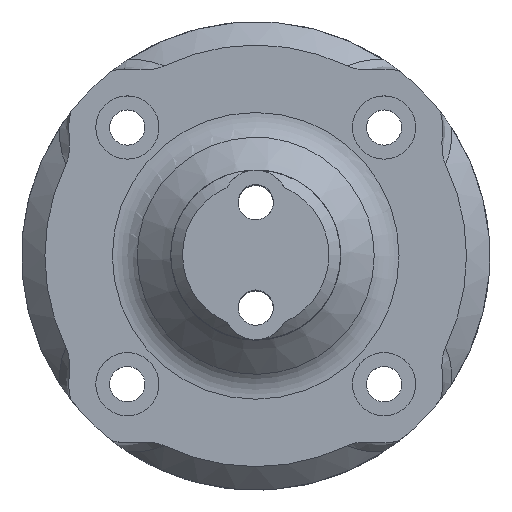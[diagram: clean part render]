
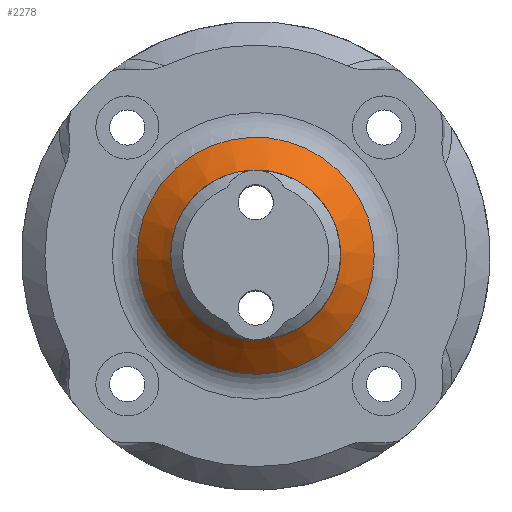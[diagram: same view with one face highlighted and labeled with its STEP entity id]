
A CAD part, top view. The second image highlights one B-rep face of the part: STEP entity #2278.
In plain terms, the highlighted conical face has half-angle 45 degrees and reference radius 6 mm.
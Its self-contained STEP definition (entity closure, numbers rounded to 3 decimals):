
#281=B_SPLINE_CURVE_WITH_KNOTS('',3,(#3556,#3557,#3558,#3559),
 .UNSPECIFIED.,.F.,.F.,(4,4),(0.,0.),.UNSPECIFIED.);
#283=B_SPLINE_CURVE_WITH_KNOTS('',3,(#3581,#3582,#3583,#3584),
 .UNSPECIFIED.,.F.,.F.,(4,4),(0.,0.),.UNSPECIFIED.);
#355=CONICAL_SURFACE('',#2532,6.,0.785);
#547=ORIENTED_EDGE('',*,*,#1193,.T.);
#548=ORIENTED_EDGE('',*,*,#1194,.F.);
#549=ORIENTED_EDGE('',*,*,#1123,.F.);
#550=ORIENTED_EDGE('',*,*,#1120,.F.);
#551=ORIENTED_EDGE('',*,*,#1108,.T.);
#552=ORIENTED_EDGE('',*,*,#1195,.F.);
#553=ORIENTED_EDGE('',*,*,#1128,.F.);
#554=ORIENTED_EDGE('',*,*,#1116,.F.);
#555=ORIENTED_EDGE('',*,*,#1099,.T.);
#1099=EDGE_CURVE('',#1445,#1444,#281,.T.);
#1108=EDGE_CURVE('',#1454,#1453,#283,.T.);
#1116=EDGE_CURVE('',#1445,#1460,#1669,.T.);
#1120=EDGE_CURVE('',#1454,#1462,#1673,.F.);
#1123=EDGE_CURVE('',#1462,#1464,#1676,.T.);
#1128=EDGE_CURVE('',#1460,#1466,#1678,.T.);
#1193=EDGE_CURVE('',#1508,#1508,#1714,.T.);
#1194=EDGE_CURVE('',#1464,#1444,#1715,.T.);
#1195=EDGE_CURVE('',#1466,#1453,#1716,.F.);
#1444=VERTEX_POINT('',#3555);
#1445=VERTEX_POINT('',#3560);
#1453=VERTEX_POINT('',#3580);
#1454=VERTEX_POINT('',#3585);
#1460=VERTEX_POINT('',#3599);
#1462=VERTEX_POINT('',#3607);
#1464=VERTEX_POINT('',#3615);
#1466=VERTEX_POINT('',#3623);
#1508=VERTEX_POINT('',#3798);
#1669=CIRCLE('',#2471,6.);
#1673=CIRCLE('',#2477,6.);
#1676=CIRCLE('',#2482,6.);
#1678=CIRCLE('',#2485,6.);
#1714=CIRCLE('',#2533,10.121);
#1715=CIRCLE('',#2534,6.);
#1716=CIRCLE('',#2535,6.);
#1845=EDGE_LOOP('',(#547));
#1846=EDGE_LOOP('',(#548,#549,#550,#551,#552,#553,#554,#555));
#2036=FACE_BOUND('',#1845,.T.);
#2037=FACE_BOUND('',#1846,.T.);
#2278=ADVANCED_FACE('',(#2036,#2037),#355,.T.);
#2471=AXIS2_PLACEMENT_3D('',#3600,#2839,#2840);
#2477=AXIS2_PLACEMENT_3D('',#3608,#2851,#2852);
#2482=AXIS2_PLACEMENT_3D('',#3614,#2861,#2862);
#2485=AXIS2_PLACEMENT_3D('',#3622,#2870,#2871);
#2532=AXIS2_PLACEMENT_3D('',#3796,#2977,#2978);
#2533=AXIS2_PLACEMENT_3D('',#3797,#2979,#2980);
#2534=AXIS2_PLACEMENT_3D('',#3799,#2981,#2982);
#2535=AXIS2_PLACEMENT_3D('',#3800,#2983,#2984);
#2839=DIRECTION('',(0.,0.,1.));
#2840=DIRECTION('',(1.,0.,0.));
#2851=DIRECTION('',(0.,0.,-1.));
#2852=DIRECTION('',(-1.,0.,0.));
#2861=DIRECTION('',(0.,0.,1.));
#2862=DIRECTION('',(1.,0.,0.));
#2870=DIRECTION('',(0.,0.,1.));
#2871=DIRECTION('',(1.,0.,0.));
#2977=DIRECTION('',(0.,0.,-1.));
#2978=DIRECTION('',(-1.,0.,0.));
#2979=DIRECTION('',(0.,0.,1.));
#2980=DIRECTION('',(1.,0.,0.));
#2981=DIRECTION('',(0.,0.,1.));
#2982=DIRECTION('',(1.,0.,0.));
#2983=DIRECTION('',(0.,0.,-1.));
#2984=DIRECTION('',(-1.,0.,0.));
#3555=CARTESIAN_POINT('',(0.142,5.998,10.));
#3556=CARTESIAN_POINT('',(-0.142,5.998,10.));
#3557=CARTESIAN_POINT('',(-0.047,6.007,9.993));
#3558=CARTESIAN_POINT('',(0.047,6.007,9.993));
#3559=CARTESIAN_POINT('',(0.142,5.998,10.));
#3560=CARTESIAN_POINT('',(-0.142,5.998,10.));
#3580=CARTESIAN_POINT('',(-0.142,-5.998,10.));
#3581=CARTESIAN_POINT('',(0.142,-5.998,10.));
#3582=CARTESIAN_POINT('',(0.047,-6.007,9.993));
#3583=CARTESIAN_POINT('',(-0.047,-6.007,9.993));
#3584=CARTESIAN_POINT('',(-0.142,-5.998,10.));
#3585=CARTESIAN_POINT('',(0.142,-5.998,10.));
#3599=CARTESIAN_POINT('',(-1.288,5.86,10.));
#3600=CARTESIAN_POINT('',(0.,0.,10.));
#3607=CARTESIAN_POINT('',(1.288,-5.86,10.));
#3608=CARTESIAN_POINT('',(0.,0.,10.));
#3614=CARTESIAN_POINT('',(0.,0.,10.));
#3615=CARTESIAN_POINT('',(1.288,5.86,10.));
#3622=CARTESIAN_POINT('',(0.,0.,10.));
#3623=CARTESIAN_POINT('',(-1.288,-5.86,10.));
#3796=CARTESIAN_POINT('',(0.,0.,10.));
#3797=CARTESIAN_POINT('',(0.,0.,5.879));
#3798=CARTESIAN_POINT('',(10.121,0.,5.879));
#3799=CARTESIAN_POINT('',(0.,0.,10.));
#3800=CARTESIAN_POINT('',(0.,0.,10.));
